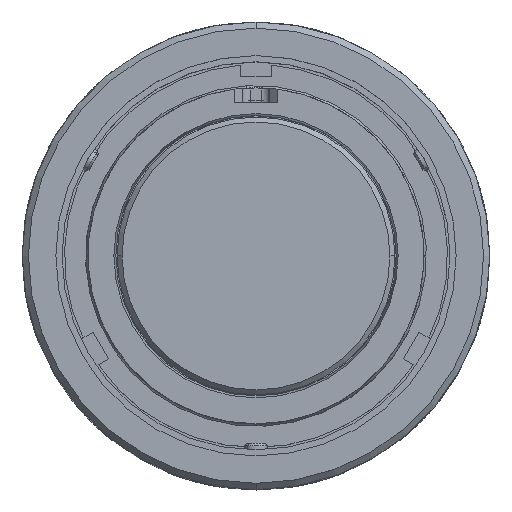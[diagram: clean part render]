
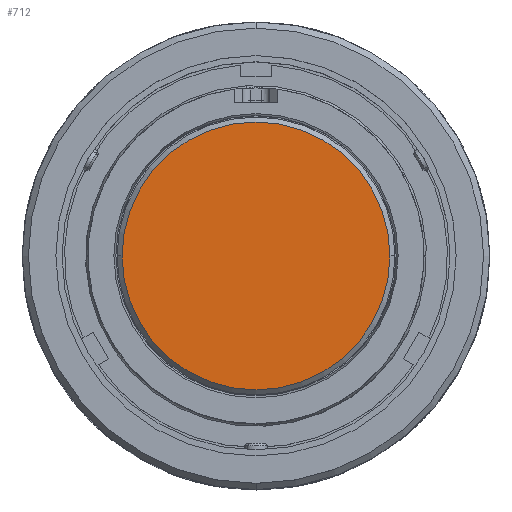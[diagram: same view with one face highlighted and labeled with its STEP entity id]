
A CAD part, top view. The second image highlights one B-rep face of the part: STEP entity #712.
In plain terms, the highlighted planar face has unit normal (0, 0, 1).
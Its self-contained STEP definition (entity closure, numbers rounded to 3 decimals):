
#181 = DIRECTION ( 'NONE',  ( 1., 0., 0. ) ) ;
#359 = AXIS2_PLACEMENT_3D ( 'NONE', #5694, #8118, #8166 ) ;
#712 = ADVANCED_FACE ( 'NONE', ( #9721 ), #984, .T. ) ;
#984 = PLANE ( 'NONE',  #6037 ) ;
#1923 = CARTESIAN_POINT ( 'NONE',  ( 13.767, 0., -13.589 ) ) ;
#2140 = DIRECTION ( 'NONE',  ( 1., 0., 0. ) ) ;
#3483 = CIRCLE ( 'NONE', #9348, 13.767 ) ;
#3619 = CARTESIAN_POINT ( 'NONE',  ( -13.767, 0., -13.589 ) ) ;
#4111 = ORIENTED_EDGE ( 'NONE', *, *, #4686, .T. ) ;
#4170 = CARTESIAN_POINT ( 'NONE',  ( 0., 0., -13.589 ) ) ;
#4686 = EDGE_CURVE ( 'NONE', #9478, #8574, #7892, .T. ) ;
#5327 = ORIENTED_EDGE ( 'NONE', *, *, #5883, .T. ) ;
#5694 = CARTESIAN_POINT ( 'NONE',  ( 0., 0., -13.589 ) ) ;
#5883 = EDGE_CURVE ( 'NONE', #8574, #9478, #3483, .T. ) ;
#6037 = AXIS2_PLACEMENT_3D ( 'NONE', #4170, #7361, #181 ) ;
#7361 = DIRECTION ( 'NONE',  ( 0., 0., 1. ) ) ;
#7892 = CIRCLE ( 'NONE', #359, 13.767 ) ;
#8118 = DIRECTION ( 'NONE',  ( 0., 0., 1. ) ) ;
#8166 = DIRECTION ( 'NONE',  ( 1., 0., 0. ) ) ;
#8280 = DIRECTION ( 'NONE',  ( 0., 0., 1. ) ) ;
#8574 = VERTEX_POINT ( 'NONE', #1923 ) ;
#8651 = EDGE_LOOP ( 'NONE', ( #4111, #5327 ) ) ;
#9055 = CARTESIAN_POINT ( 'NONE',  ( 0., 0., -13.589 ) ) ;
#9348 = AXIS2_PLACEMENT_3D ( 'NONE', #9055, #8280, #2140 ) ;
#9478 = VERTEX_POINT ( 'NONE', #3619 ) ;
#9721 = FACE_OUTER_BOUND ( 'NONE', #8651, .T. ) ;
